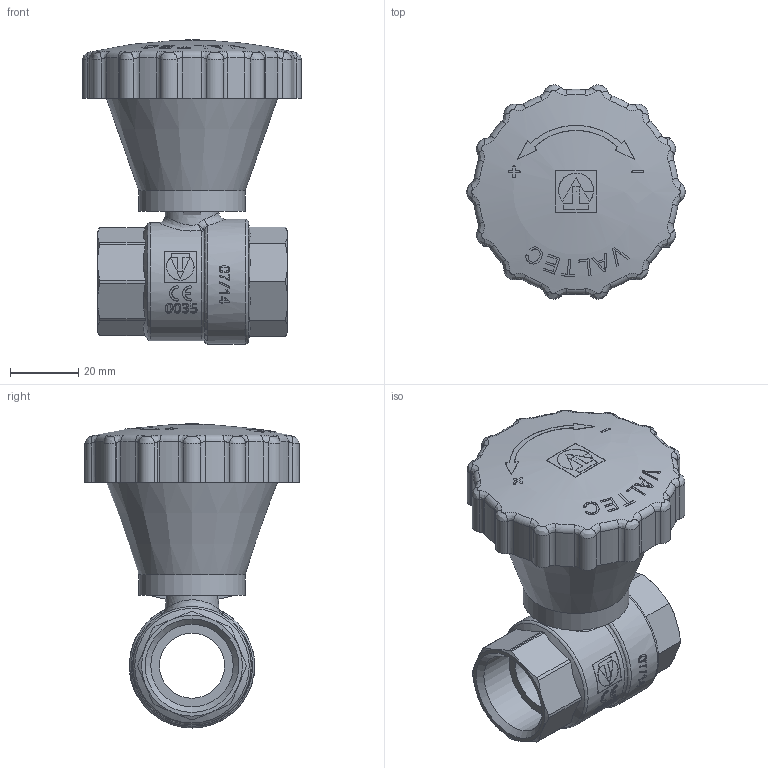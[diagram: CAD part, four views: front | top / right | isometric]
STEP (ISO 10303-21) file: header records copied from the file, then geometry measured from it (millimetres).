
FILE_DESCRIPTION(('TFLEX Exchange Step'),'2;1');
FILE_NAME('Ball valve smooth opening DN20, 3_4 VT.252.N.05 Valtec.stp', '2023-09-12T15:22:21+03:00',('denis'),('Unknown organisation'),'TFLEX Exchange 2023.0','T-FLEX CAD','Unknown authorisation');
FILE_SCHEMA( ('AUTOMOTIVE_DESIGN { 1 0 10303 214 1 1 1 1 }') );
Length unit declared in the file: millimetre
Products named in the file (1): Nodes
Bounding box: 64 x 62.54 x 88.84 mm (x, y, z)
Volume: 112983 mm3; surface area: 30331.1 mm2
Topology: 3 solids, 3 shells, 701 faces, 1845 edges, 1206 vertices
Faces by surface type: bspline 339, plane 186, cylinder 123, torus 19, cone 19, sphere 15
Full cylindrical faces by diameter (mm): 19 x1, 24.1 x2, 31 x1, 34.458 x1, 36.444 x1, 56 x2, 57 x1
Entity records: 56426 total; most frequent: CARTESIAN_POINT 41413, ORIENTED_EDGE 3684, DIRECTION 2120, EDGE_CURVE 1842, VERTEX_POINT 1206, B_SPLINE_CURVE_WITH_KNOTS 797, EDGE_LOOP 762, FACE_BOUND 762
